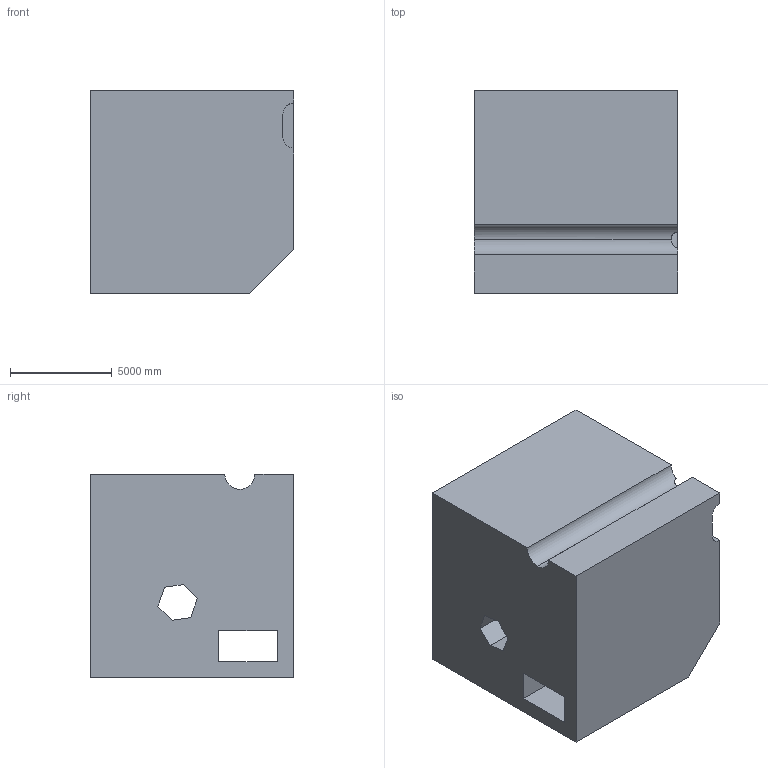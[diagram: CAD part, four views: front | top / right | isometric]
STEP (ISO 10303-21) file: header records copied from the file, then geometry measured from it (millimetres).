
FILE_DESCRIPTION (( 'STEP AP203' ), '1' );
FILE_NAME ('52.STEP', '2022-08-30T14:12:51', ( 'user' ), ( '' ), 'SwSTEP 2.0', 'SolidWorks 2021', '' );
FILE_SCHEMA (( 'CONFIG_CONTROL_DESIGN' ));
Length unit declared in the file: centimetre
Products named in the file (1): 52
Bounding box: 10000 x 10000 x 10000 mm (x, y, z)
Volume: 882388078767.9 mm3; surface area: 719623499.1 mm2
Topology: 1 solids, 1 shells, 28 faces, 81 edges, 54 vertices
Faces by surface type: plane 24, cylinder 4
Entity records: 1104 total; most frequent: CARTESIAN_POINT 274, ORIENTED_EDGE 162, DIRECTION 145, EDGE_CURVE 81, LINE 71, VECTOR 71, VERTEX_POINT 54, AXIS2_PLACEMENT_3D 37
